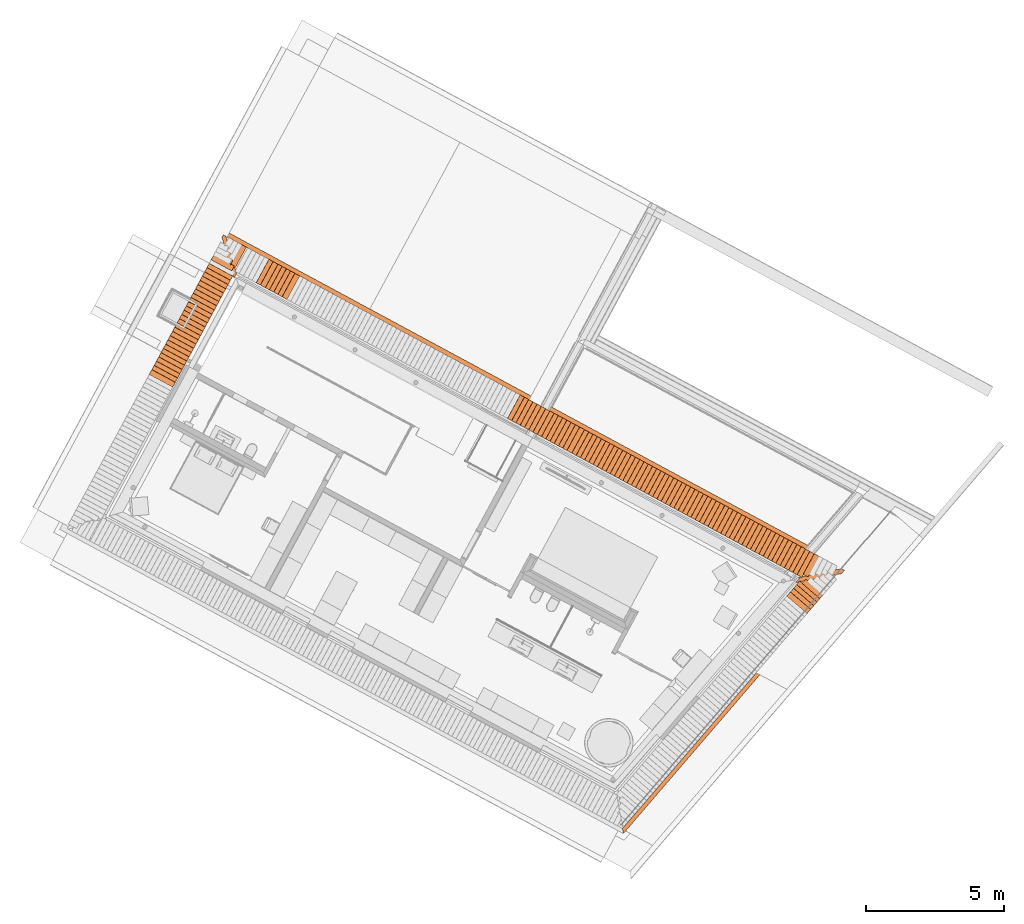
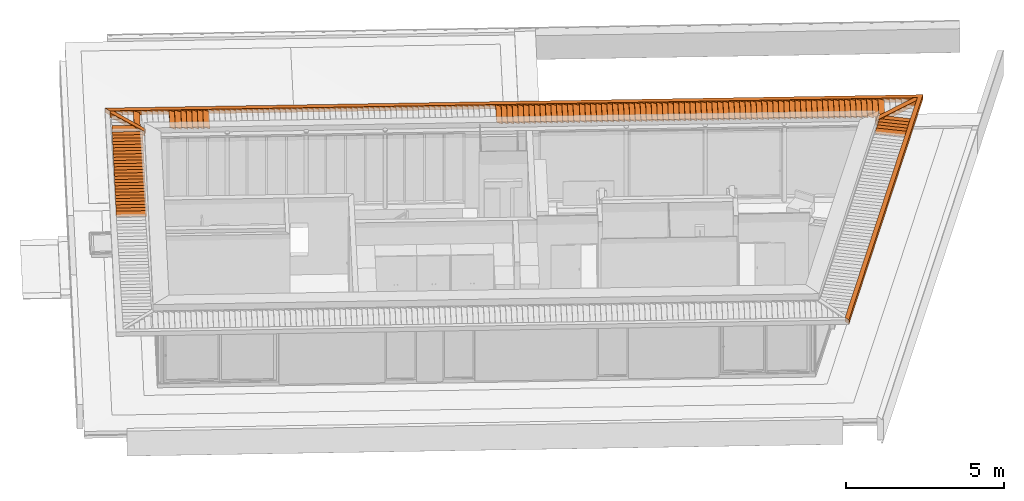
# One storey, part 39 of 41: 113 proxies.
"""IFC2X3 building model written with IfcOpenShell, lengths in metres."""

from ifc_helpers import new_model, entity, si_unit, converted_unit, derived_unit, money_unit, direction, frame, origin_with_axes, place, context, subcontext, project, spatial, polyline, outline, extrude, faceted_brep, source, transform, mapped, material, material_list, type_object, element, save


model = new_model("IFC2X3")

# Units and contexts
model_context = context("Model", 3, precision=1e-05, world=origin_with_axes(), true_north=direction((0.0, 1.0)))
body_context = subcontext(model_context, "Body", "Model", "MODEL_VIEW")
ifc_project = project(units=[si_unit("LENGTHUNIT", "METRE"), si_unit("AREAUNIT", "SQUARE_METRE"), si_unit("VOLUMEUNIT", "CUBIC_METRE"), converted_unit("PLANEANGLEUNIT", "DEGREE", entity("IfcPlaneAngleMeasure", 0.0174532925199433), si_unit("PLANEANGLEUNIT", "RADIAN"), dimensions=[0, 0, 0, 0, 0, 0, 0]), money_unit("EUR"), converted_unit("TIMEUNIT", "Year", entity("IfcTimeMeasure", 31556926.0), si_unit("TIMEUNIT", "SECOND"), dimensions=[0, 0, 1, 0, 0, 0, 0]), si_unit("MASSUNIT", "GRAM", prefix="KILO"), si_unit("THERMODYNAMICTEMPERATUREUNIT", "DEGREE_CELSIUS"), si_unit("LUMINOUSINTENSITYUNIT", "LUMEN"), si_unit("ENERGYUNIT", "JOULE", prefix="MEGA"), derived_unit("THERMALCONDUCTANCEUNIT", [(si_unit("POWERUNIT", "WATT"), 1), (si_unit("LENGTHUNIT", "METRE"), -1), (si_unit("THERMODYNAMICTEMPERATUREUNIT", "KELVIN"), -1)]), derived_unit("SPECIFICHEATCAPACITYUNIT", [(si_unit("ENERGYUNIT", "JOULE"), 1), (si_unit("MASSUNIT", "GRAM", prefix="KILO"), -1), (si_unit("THERMODYNAMICTEMPERATUREUNIT", "KELVIN"), -1)]), derived_unit("MASSDENSITYUNIT", [(si_unit("MASSUNIT", "GRAM", prefix="KILO"), 1), (si_unit("VOLUMEUNIT", "CUBIC_METRE"), -1)])], contexts=[model_context])

# Site, building, storey
site_placement = place(None, frame((-3.949935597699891, 1.740105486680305, 0.0), z_axis=(0.0, 0.0, 1.0), x_axis=(0.8799804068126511, -0.475009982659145, 0.0)))
site = spatial("IfcSite", under=ifc_project, at=site_placement, Name="Gelände", CompositionType="ELEMENT")
building_placement = place(site_placement, origin_with_axes())
building = spatial("IfcBuilding", under=site, at=building_placement, Name="Gebäude", CompositionType="ELEMENT")
storey_placement = place(building_placement, frame((0.0, 0.0, 4.55), z_axis=(0.0, 0.0, 1.0), x_axis=(1.0, 0.0, 0.0)))
storey = spatial("IfcBuildingStorey", under=building, at=storey_placement, Name="Staffelgeschoss", CompositionType="ELEMENT", Elevation=4.55)

# Proxies
ifc_material_1 = material(Name="ALLGEMEIN - BAUTEIL")
building_element_proxy_type_1 = type_object("IfcBuildingElementProxyType", Name="ALLGEMEIN - BAUTEIL", PredefinedType="USERDEFINED")
shared_shape_1 = source(origin_with_axes(), body_context, "Body", "Brep", [
    faceted_brep([(0.2148913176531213, -0.9669323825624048, 0.0), (0.0, -0.9669000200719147, 0.0), (0.0, 0.0, 0.0), (0.2150369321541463, -3.238441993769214e-05, 0.0), (0.2148913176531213, -0.9669323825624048, 0.009999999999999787), (0.0, -0.9669000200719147, 0.009999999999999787), (0.0, 0.0, 0.009999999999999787), (0.2150369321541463, -3.238441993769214e-05, 0.009999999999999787)], [[[0, 1, 2, 3]], [[1, 0, 4, 5]], [[5, 6, 2, 1]], [[6, 7, 3, 2]], [[4, 0, 3, 7]], [[6, 5, 4, 7]]]),
])
for number, where, z_axis, x_axis, name in (
    (1, (5.895087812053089, 12.18825268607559, 2.903466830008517), (0.3575193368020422, 0.0, 0.933905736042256), (0.933905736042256, 0.0, -0.3575193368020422), "Morph-037"),
    (2, (6.070046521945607, 12.18825268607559, 2.903466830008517), (0.3575193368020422, 0.0, 0.933905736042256), (0.933905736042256, 0.0, -0.3575193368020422), "Morph-037"),
    (3, (5.034057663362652, 11.03360166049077, 2.903466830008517), (0.0, -0.3575193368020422, 0.933905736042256), (0.0, -0.933905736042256, -0.3575193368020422), "Morph-037"),
    (4, (5.034057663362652, 10.85864295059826, 2.903466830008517), (0.0, -0.3575193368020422, 0.933905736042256), (0.0, -0.933905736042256, -0.3575193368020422), "Morph-037"),
    (5, (5.034057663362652, 10.68368424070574, 2.903466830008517), (0.0, -0.3575193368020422, 0.933905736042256), (0.0, -0.933905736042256, -0.3575193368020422), "Morph-037"),
    (6, (5.034057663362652, 10.50872553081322, 2.903466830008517), (0.0, -0.3575193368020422, 0.933905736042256), (0.0, -0.933905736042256, -0.3575193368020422), "Morph-037"),
    (7, (5.034057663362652, 10.3337668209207, 2.903466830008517), (0.0, -0.3575193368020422, 0.933905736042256), (0.0, -0.933905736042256, -0.3575193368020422), "Morph-037"),
    (8, (5.034057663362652, 9.983849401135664, 2.903466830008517), (0.0, -0.3575193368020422, 0.933905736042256), (0.0, -0.933905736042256, -0.3575193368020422), "Morph-037"),
    (9, (5.034057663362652, 10.15880811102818, 2.903466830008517), (0.0, -0.3575193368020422, 0.933905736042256), (0.0, -0.933905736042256, -0.3575193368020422), "Morph-037"),
    (10, (5.034057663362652, 9.808890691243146, 2.903466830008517), (0.0, -0.3575193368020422, 0.933905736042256), (0.0, -0.933905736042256, -0.3575193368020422), "Morph-037"),
    (11, (5.034057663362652, 9.633931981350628, 2.903466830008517), (0.0, -0.3575193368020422, 0.933905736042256), (0.0, -0.933905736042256, -0.3575193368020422), "Morph-037"),
    (12, (5.034057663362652, 9.284014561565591, 2.903466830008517), (0.0, -0.3575193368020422, 0.933905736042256), (0.0, -0.933905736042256, -0.3575193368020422), "Morph-037"),
    (13, (5.034057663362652, 9.109055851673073, 2.903466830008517), (0.0, -0.3575193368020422, 0.933905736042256), (0.0, -0.933905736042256, -0.3575193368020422), "Morph-037"),
    (14, (5.034057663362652, 9.45897327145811, 2.903466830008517), (0.0, -0.3575193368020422, 0.933905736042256), (0.0, -0.933905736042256, -0.3575193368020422), "Morph-037"),
    (15, (5.034057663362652, 8.934097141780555, 2.903466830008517), (0.0, -0.3575193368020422, 0.933905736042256), (0.0, -0.933905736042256, -0.3575193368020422), "Morph-037"),
    (16, (5.034057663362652, 8.759138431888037, 2.903466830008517), (0.0, -0.3575193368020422, 0.933905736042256), (0.0, -0.933905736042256, -0.3575193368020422), "Morph-037"),
    (17, (5.034057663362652, 8.584179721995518, 2.903466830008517), (0.0, -0.3575193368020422, 0.933905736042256), (0.0, -0.933905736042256, -0.3575193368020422), "Morph-037"),
    (18, (5.034057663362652, 8.409221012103, 2.903466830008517), (0.0, -0.3575193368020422, 0.933905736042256), (0.0, -0.933905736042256, -0.3575193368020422), "Morph-037"),
    (19, (5.034057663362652, 8.234262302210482, 2.903466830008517), (0.0, -0.3575193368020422, 0.933905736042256), (0.0, -0.933905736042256, -0.3575193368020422), "Morph-037"),
    (20, (5.034057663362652, 7.884344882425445, 2.903466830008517), (0.0, -0.3575193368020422, 0.933905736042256), (0.0, -0.933905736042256, -0.3575193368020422), "Morph-037"),
    (21, (5.034057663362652, 8.059303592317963, 2.903466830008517), (0.0, -0.3575193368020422, 0.933905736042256), (0.0, -0.933905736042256, -0.3575193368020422), "Morph-037"),
    (22, (5.034057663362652, 7.534427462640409, 2.903466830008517), (0.0, -0.3575193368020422, 0.933905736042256), (0.0, -0.933905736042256, -0.3575193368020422), "Morph-037"),
    (23, (5.034057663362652, 7.709386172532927, 2.903466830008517), (0.0, -0.3575193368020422, 0.933905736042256), (0.0, -0.933905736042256, -0.3575193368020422), "Morph-037"),
    (24, (5.034057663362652, 7.35946875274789, 2.903466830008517), (0.0, -0.3575193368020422, 0.933905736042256), (0.0, -0.933905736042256, -0.3575193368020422), "Morph-037"),
    (25, (5.034057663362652, 7.184510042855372, 2.903466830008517), (0.0, -0.3575193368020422, 0.933905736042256), (0.0, -0.933905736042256, -0.3575193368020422), "Morph-037"),
    (26, (5.034057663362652, 7.009551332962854, 2.903466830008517), (0.0, -0.3575193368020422, 0.933905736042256), (0.0, -0.933905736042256, -0.3575193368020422), "Morph-037"),
    (27, (5.034057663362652, 6.834592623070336, 2.903466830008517), (0.0, -0.3575193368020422, 0.933905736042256), (0.0, -0.933905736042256, -0.3575193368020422), "Morph-037"),
    (28, (5.034057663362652, 6.659633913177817, 2.903466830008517), (0.0, -0.3575193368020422, 0.933905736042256), (0.0, -0.933905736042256, -0.3575193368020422), "Morph-037"),
    (29, (6.440462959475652, 12.18825268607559, 2.903466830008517), (0.3575193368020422, 0.0, 0.933905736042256), (0.933905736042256, 0.0, -0.3575193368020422), "Morph-037"),
    (30, (6.61542166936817, 12.18825268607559, 2.903466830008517), (0.3575193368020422, 0.0, 0.933905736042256), (0.933905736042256, 0.0, -0.3575193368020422), "Morph-037"),
    (31, (6.790380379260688, 12.18825268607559, 2.903466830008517), (0.3575193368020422, 0.0, 0.933905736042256), (0.933905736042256, 0.0, -0.3575193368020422), "Morph-037"),
    (32, (6.965339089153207, 12.18825268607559, 2.903466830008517), (0.3575193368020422, 0.0, 0.933905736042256), (0.933905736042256, 0.0, -0.3575193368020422), "Morph-037"),
    (33, (16.23815071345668, 12.18825268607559, 2.903466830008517), (0.3575193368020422, 0.0, 0.933905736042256), (0.933905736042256, 0.0, -0.3575193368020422), "Morph-037"),
    (34, (16.41310942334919, 12.18825268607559, 2.903466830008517), (0.3575193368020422, 0.0, 0.933905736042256), (0.933905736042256, 0.0, -0.3575193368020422), "Morph-037"),
    (35, (16.58806813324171, 12.18825268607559, 2.903466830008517), (0.3575193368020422, 0.0, 0.933905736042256), (0.933905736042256, 0.0, -0.3575193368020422), "Morph-037"),
    (36, (16.76302684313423, 12.18825268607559, 2.903466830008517), (0.3575193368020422, 0.0, 0.933905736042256), (0.933905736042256, 0.0, -0.3575193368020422), "Morph-037"),
    (37, (16.93798555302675, 12.18825268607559, 2.903466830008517), (0.3575193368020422, 0.0, 0.933905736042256), (0.933905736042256, 0.0, -0.3575193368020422), "Morph-037"),
    (38, (17.28790297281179, 12.18825268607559, 2.903466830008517), (0.3575193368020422, 0.0, 0.933905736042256), (0.933905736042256, 0.0, -0.3575193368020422), "Morph-037"),
    (39, (17.11294426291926, 12.18825268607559, 2.903466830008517), (0.3575193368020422, 0.0, 0.933905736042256), (0.933905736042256, 0.0, -0.3575193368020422), "Morph-037"),
    (40, (17.63782039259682, 12.18825268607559, 2.903466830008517), (0.3575193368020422, 0.0, 0.933905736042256), (0.933905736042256, 0.0, -0.3575193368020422), "Morph-037"),
    (41, (17.4628616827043, 12.18825268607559, 2.903466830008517), (0.3575193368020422, 0.0, 0.933905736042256), (0.933905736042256, 0.0, -0.3575193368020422), "Morph-037"),
    (42, (17.81277910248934, 12.18825268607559, 2.903466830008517), (0.3575193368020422, 0.0, 0.933905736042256), (0.933905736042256, 0.0, -0.3575193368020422), "Morph-037"),
    (43, (17.98773781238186, 12.18825268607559, 2.903466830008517), (0.3575193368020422, 0.0, 0.933905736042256), (0.933905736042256, 0.0, -0.3575193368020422), "Morph-037"),
    (44, (18.16269652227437, 12.18825268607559, 2.903466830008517), (0.3575193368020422, 0.0, 0.933905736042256), (0.933905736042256, 0.0, -0.3575193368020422), "Morph-037"),
    (45, (18.3376552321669, 12.18825268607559, 2.903466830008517), (0.3575193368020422, 0.0, 0.933905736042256), (0.933905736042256, 0.0, -0.3575193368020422), "Morph-037"),
    (46, (18.51261394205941, 12.18825268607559, 2.903466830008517), (0.3575193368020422, 0.0, 0.933905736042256), (0.933905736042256, 0.0, -0.3575193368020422), "Morph-037"),
    (47, (18.68757265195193, 12.18825268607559, 2.903466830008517), (0.3575193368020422, 0.0, 0.933905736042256), (0.933905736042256, 0.0, -0.3575193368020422), "Morph-037"),
    (48, (19.06321959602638, 12.1882203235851, 2.903466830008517), (0.3575193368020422, 0.0, 0.933905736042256), (0.933905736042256, 0.0, -0.3575193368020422), "Morph-037"),
    (49, (19.2381783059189, 12.1882203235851, 2.903466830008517), (0.3575193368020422, 0.0, 0.933905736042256), (0.933905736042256, 0.0, -0.3575193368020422), "Morph-037"),
    (50, (19.41313701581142, 12.1882203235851, 2.903466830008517), (0.3575193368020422, 0.0, 0.933905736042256), (0.933905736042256, 0.0, -0.3575193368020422), "Morph-037"),
    (51, (19.76305443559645, 12.1882203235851, 2.903466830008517), (0.3575193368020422, 0.0, 0.933905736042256), (0.933905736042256, 0.0, -0.3575193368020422), "Morph-037"),
    (52, (19.58809572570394, 12.1882203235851, 2.903466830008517), (0.3575193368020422, 0.0, 0.933905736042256), (0.933905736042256, 0.0, -0.3575193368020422), "Morph-037"),
    (53, (20.11297185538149, 12.1882203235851, 2.903466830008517), (0.3575193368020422, 0.0, 0.933905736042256), (0.933905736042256, 0.0, -0.3575193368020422), "Morph-037"),
    (54, (19.93801314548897, 12.1882203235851, 2.903466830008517), (0.3575193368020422, 0.0, 0.933905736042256), (0.933905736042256, 0.0, -0.3575193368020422), "Morph-037"),
    (55, (20.28793056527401, 12.1882203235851, 2.903466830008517), (0.3575193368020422, 0.0, 0.933905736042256), (0.933905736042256, 0.0, -0.3575193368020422), "Morph-037"),
    (56, (20.63784798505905, 12.1882203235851, 2.903466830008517), (0.3575193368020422, 0.0, 0.933905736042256), (0.933905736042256, 0.0, -0.3575193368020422), "Morph-037"),
    (57, (20.46288927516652, 12.1882203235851, 2.903466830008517), (0.3575193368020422, 0.0, 0.933905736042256), (0.933905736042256, 0.0, -0.3575193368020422), "Morph-037"),
    (58, (20.81280669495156, 12.1882203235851, 2.903466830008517), (0.3575193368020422, 0.0, 0.933905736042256), (0.933905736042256, 0.0, -0.3575193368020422), "Morph-037"),
    (59, (20.98776540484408, 12.1882203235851, 2.903466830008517), (0.3575193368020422, 0.0, 0.933905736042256), (0.933905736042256, 0.0, -0.3575193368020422), "Morph-037"),
    (60, (21.1627241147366, 12.1882203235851, 2.903466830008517), (0.3575193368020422, 0.0, 0.933905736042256), (0.933905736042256, 0.0, -0.3575193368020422), "Morph-037"),
    (61, (21.33768282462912, 12.1882203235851, 2.903466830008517), (0.3575193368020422, 0.0, 0.933905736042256), (0.933905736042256, 0.0, -0.3575193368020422), "Morph-037"),
    (62, (21.51264153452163, 12.1882203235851, 2.903466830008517), (0.3575193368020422, 0.0, 0.933905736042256), (0.933905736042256, 0.0, -0.3575193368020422), "Morph-037"),
    (63, (21.68760024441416, 12.1882203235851, 2.903466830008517), (0.3575193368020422, 0.0, 0.933905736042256), (0.933905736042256, 0.0, -0.3575193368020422), "Morph-037"),
    (64, (21.86255895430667, 12.1882203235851, 2.903466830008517), (0.3575193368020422, 0.0, 0.933905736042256), (0.933905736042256, 0.0, -0.3575193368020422), "Morph-037"),
    (65, (22.03751766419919, 12.1882203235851, 2.903466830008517), (0.3575193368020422, 0.0, 0.933905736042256), (0.933905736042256, 0.0, -0.3575193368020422), "Morph-037"),
    (66, (22.21247637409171, 12.1882203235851, 2.903466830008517), (0.3575193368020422, 0.0, 0.933905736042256), (0.933905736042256, 0.0, -0.3575193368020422), "Morph-037"),
    (67, (22.38743508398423, 12.1882203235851, 2.903466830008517), (0.3575193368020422, 0.0, 0.933905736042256), (0.933905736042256, 0.0, -0.3575193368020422), "Morph-037"),
    (68, (22.56239379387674, 12.1882203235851, 2.903466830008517), (0.3575193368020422, 0.0, 0.933905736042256), (0.933905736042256, 0.0, -0.3575193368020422), "Morph-037"),
    (69, (22.73735250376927, 12.1882203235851, 2.903466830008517), (0.3575193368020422, 0.0, 0.933905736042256), (0.933905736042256, 0.0, -0.3575193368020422), "Morph-037"),
    (70, (22.91231121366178, 12.1882203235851, 2.903466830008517), (0.3575193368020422, 0.0, 0.933905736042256), (0.933905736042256, 0.0, -0.3575193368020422), "Morph-037"),
    (71, (23.0872699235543, 12.1882203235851, 2.903466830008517), (0.3575193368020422, 0.0, 0.933905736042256), (0.933905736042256, 0.0, -0.3575193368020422), "Morph-037"),
    (72, (23.26222863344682, 12.1882203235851, 2.903466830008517), (0.3575193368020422, 0.0, 0.933905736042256), (0.933905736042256, 0.0, -0.3575193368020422), "Morph-037"),
    (73, (23.43718734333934, 12.1882203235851, 2.903466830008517), (0.3575193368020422, 0.0, 0.933905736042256), (0.933905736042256, 0.0, -0.3575193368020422), "Morph-037"),
    (74, (23.61214605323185, 12.1882203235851, 2.903466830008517), (0.3575193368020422, 0.0, 0.933905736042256), (0.933905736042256, 0.0, -0.3575193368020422), "Morph-037"),
    (75, (23.96206347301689, 12.1882203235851, 2.903466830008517), (0.3575193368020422, 0.0, 0.933905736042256), (0.933905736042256, 0.0, -0.3575193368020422), "Morph-037"),
    (76, (23.78710476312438, 12.1882203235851, 2.903466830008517), (0.3575193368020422, 0.0, 0.933905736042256), (0.933905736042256, 0.0, -0.3575193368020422), "Morph-037"),
    (77, (24.31198089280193, 12.1882203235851, 2.903466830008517), (0.3575193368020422, 0.0, 0.933905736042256), (0.933905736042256, 0.0, -0.3575193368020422), "Morph-037"),
    (78, (24.13702218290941, 12.1882203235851, 2.903466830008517), (0.3575193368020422, 0.0, 0.933905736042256), (0.933905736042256, 0.0, -0.3575193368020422), "Morph-037"),
    (79, (24.48693960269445, 12.1882203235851, 2.903466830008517), (0.3575193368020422, 0.0, 0.933905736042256), (0.933905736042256, 0.0, -0.3575193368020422), "Morph-037"),
    (80, (24.83685702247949, 12.1882203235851, 2.903466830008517), (0.3575193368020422, 0.0, 0.933905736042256), (0.933905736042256, 0.0, -0.3575193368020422), "Morph-037"),
    (81, (24.66189831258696, 12.1882203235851, 2.903466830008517), (0.3575193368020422, 0.0, 0.933905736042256), (0.933905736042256, 0.0, -0.3575193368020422), "Morph-037"),
    (82, (25.011815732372, 12.1882203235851, 2.903466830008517), (0.3575193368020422, 0.0, 0.933905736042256), (0.933905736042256, 0.0, -0.3575193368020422), "Morph-037"),
    (83, (25.18677444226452, 12.1882203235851, 2.903466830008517), (0.3575193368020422, 0.0, 0.933905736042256), (0.933905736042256, 0.0, -0.3575193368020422), "Morph-037"),
    (84, (25.36173315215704, 12.1882203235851, 2.903466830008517), (0.3575193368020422, 0.0, 0.933905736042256), (0.933905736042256, 0.0, -0.3575193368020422), "Morph-037"),
    (85, (25.53669186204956, 12.1882203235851, 2.903466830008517), (0.3575193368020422, 0.0, 0.933905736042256), (0.933905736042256, 0.0, -0.3575193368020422), "Morph-037"),
    (86, (25.71165057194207, 12.1882203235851, 2.903466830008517), (0.3575193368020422, 0.0, 0.933905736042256), (0.933905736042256, 0.0, -0.3575193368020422), "Morph-037"),
    (87, (25.88660928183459, 12.1882203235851, 2.903466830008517), (0.3575193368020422, 0.0, 0.933905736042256), (0.933905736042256, 0.0, -0.3575193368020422), "Morph-037"),
    (88, (26.06156799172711, 12.1882203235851, 2.903466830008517), (0.3575193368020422, 0.0, 0.933905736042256), (0.933905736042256, 0.0, -0.3575193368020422), "Morph-037"),
    (89, (18.88826088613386, 12.1882203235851, 2.903466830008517), (0.3575193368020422, 0.0, 0.933905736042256), (0.933905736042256, 0.0, -0.3575193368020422), "Morph-037"),
    (90, (26.23652664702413, 12.18788176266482, 2.903466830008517), (0.3575193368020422, 0.0, 0.933905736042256), (0.933905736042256, 0.0, -0.3575193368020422), "Morph-037"),
    (91, (6.270870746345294, 12.18825268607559, 2.903466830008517), (0.3575193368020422, 0.0, 0.933905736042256), (0.933905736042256, 0.0, -0.3575193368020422), "Morph-037"),
    (92, (26.41148535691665, 12.18788176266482, 2.903466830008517), (0.3575193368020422, 0.0, 0.933905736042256), (0.933905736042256, 0.0, -0.3575193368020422), "Morph-037"),
    (93, (26.58644406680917, 12.18788176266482, 2.903466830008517), (0.3575193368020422, 0.0, 0.933905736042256), (0.933905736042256, 0.0, -0.3575193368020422), "Morph-037"),
    (94, (26.76140277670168, 12.18788176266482, 2.903466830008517), (0.3575193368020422, 0.0, 0.933905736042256), (0.933905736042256, 0.0, -0.3575193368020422), "Morph-037"),
    (95, (26.9363614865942, 12.18788176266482, 2.903466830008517), (0.3575193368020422, 0.0, 0.933905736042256), (0.933905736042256, 0.0, -0.3575193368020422), "Morph-037"),
    (96, (27.28627890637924, 12.18788176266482, 2.903466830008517), (0.3575193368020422, 0.0, 0.933905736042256), (0.933905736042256, 0.0, -0.3575193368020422), "Morph-037"),
    (97, (27.11132019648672, 12.18788176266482, 2.903466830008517), (0.3575193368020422, 0.0, 0.933905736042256), (0.933905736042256, 0.0, -0.3575193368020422), "Morph-037"),
    (98, (27.46123761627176, 12.18788176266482, 2.903466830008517), (0.3575193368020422, 0.0, 0.933905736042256), (0.933905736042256, 0.0, -0.3575193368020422), "Morph-037"),
    (99, (27.63619632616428, 12.18788176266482, 2.903466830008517), (0.3575193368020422, 0.0, 0.933905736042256), (0.933905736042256, 0.0, -0.3575193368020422), "Morph-037"),
    (100, (27.81115503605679, 12.18788176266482, 2.903466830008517), (0.3575193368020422, 0.0, 0.933905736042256), (0.933905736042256, 0.0, -0.3575193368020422), "Morph-037"),
    (101, (28.16107245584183, 12.18788176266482, 2.903466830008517), (0.3575193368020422, 0.0, 0.933905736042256), (0.933905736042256, 0.0, -0.3575193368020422), "Morph-037"),
    (102, (27.98611374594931, 12.18788176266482, 2.903466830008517), (0.3575193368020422, 0.0, 0.933905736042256), (0.933905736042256, 0.0, -0.3575193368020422), "Morph-037"),
    (103, (29.3024389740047, 10.86673550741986, 2.903466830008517), (-0.07623058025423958, -0.3492978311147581, 0.933905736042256), (-0.1991281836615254, -0.9124296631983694, -0.3575193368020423), "Morph-037"),
    (104, (29.26513412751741, 10.69580014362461, 2.903466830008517), (-0.07623058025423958, -0.3492978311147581, 0.933905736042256), (-0.1991281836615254, -0.9124296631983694, -0.3575193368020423), "Morph-037"),
    (105, (29.22782928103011, 10.52486477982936, 2.903466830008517), (-0.07623058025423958, -0.3492978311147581, 0.933905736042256), (-0.1991281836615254, -0.9124296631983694, -0.3575193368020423), "Morph-037"),
    (106, (29.19052443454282, 10.35392941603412, 2.903466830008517), (-0.07623058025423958, -0.3492978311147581, 0.933905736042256), (-0.1991281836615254, -0.9124296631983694, -0.3575193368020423), "Morph-037"),
):
    element("IfcBuildingElementProxy", number, at=place(storey_placement, frame(where, z_axis=z_axis, x_axis=x_axis)), inside=storey, type_object=building_element_proxy_type_1, material=ifc_material_1, Name=name, ObjectType="SHADING_DEVICE", context=body_context, shape_type="MappedRepresentation", body=[
        mapped(shared_shape_1, transform((0.0, 0.0, 0.0))),
    ])
shared_shape_2 = source(origin_with_axes(), body_context, "Body", "Brep", [
    faceted_brep([(-5.340442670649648e-05, -0.3143936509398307, -1.305102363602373e-05), (-2.435784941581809e-05, -0.1215204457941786, -1.305102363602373e-05), (0.2150125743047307, -0.1215528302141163, -1.305102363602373e-05), (0.2148913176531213, -0.9669323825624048, 0.0), (0.0, -0.9669000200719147, 0.0), (-5.340442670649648e-05, -0.3143936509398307, 0.00998694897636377), (-2.435784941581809e-05, -0.1215204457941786, 0.00998694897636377), (0.2150125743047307, -0.1215528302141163, 0.00998694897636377), (0.2148913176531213, -0.9669323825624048, 0.009999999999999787), (0.0, -0.9669000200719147, 0.009999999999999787)], [[[0, 1, 2, 3, 4]], [[0, 5, 6, 1]], [[1, 6, 7, 2]], [[8, 3, 2, 7]], [[3, 8, 9, 4]], [[9, 5, 0, 4]], [[5, 9, 8, 7, 6]]]),
])
for number, where, z_axis, x_axis, name in (
    (107, (29.4616301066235, 11.0219917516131, 2.903466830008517), (-0.07787668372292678, -0.3489345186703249, 0.933905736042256), (-0.2034281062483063, -0.9114806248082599, -0.3575193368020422), "Morph-037"),
    (108, (28.34692991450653, 12.31014913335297, 2.903466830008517), (0.3575193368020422, 0.0, 0.933905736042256), (0.933905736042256, 0.0, -0.3575193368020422), "Morph-037"),
    (109, (4.766498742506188, 12.30980551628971, 2.903466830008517), (0.3575193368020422, 0.0, 0.933905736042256), (0.933905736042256, 0.0, -0.3575193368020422), "Morph-037"),
    (110, (5.033951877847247, 11.38033224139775, 2.903466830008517), (0.0, -0.3575193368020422, 0.933905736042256), (0.0, -0.933905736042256, -0.3575193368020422), "Morph-037"),
):
    element("IfcBuildingElementProxy", number, at=place(storey_placement, frame(where, z_axis=z_axis, x_axis=x_axis)), inside=storey, type_object=building_element_proxy_type_1, material=ifc_material_1, Name=name, ObjectType="SHADING_DEVICE", context=body_context, shape_type="MappedRepresentation", body=[
        mapped(shared_shape_2, transform((0.0, 0.0, 0.0))),
    ])
ifc_material_2 = material(Name="Dämmung, hart EPS")
ifc_material_3 = material(Name="Sperrschicht, Folie")
ifc_material_4 = material(Name="Estrich")
ifc_material_5 = material(Name="Kleber")
ifc_material_6 = material(Name="Beton, Leichtbeton")
ifc_material_list = material_list([ifc_material_2, ifc_material_3, ifc_material_4, ifc_material_5, ifc_material_6])
building_element_proxy_type_2 = type_object("IfcBuildingElementProxyType", Name="BO | Dämmung 8+Folie+Estrich 7+Fliese 0,5 | 16cm 170", PredefinedType="NOTDEFINED")
proxy_1_placement = place(storey_placement, frame((28.23115328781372, 11.14280060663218, 2.75), z_axis=(0.0, 0.0, 1.0), x_axis=(1.0, 0.0, 0.0)))
element("IfcBuildingElementProxy", 111, at=proxy_1_placement, inside=storey, type_object=building_element_proxy_type_2, material=ifc_material_list, Name="Decke055", context=body_context, shape_type="SweptSolid", body=[
    extrude(outline(polyline([(0.0, 0.0), (0.05821938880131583, 0.0), (0.01235594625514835, -0.2099893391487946), (1.329367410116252, 0.8777926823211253), (1.364410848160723, 1.038242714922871), (1.243079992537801, 1.038242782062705), (0.0, 0.0)])), origin_with_axes(), (0.0, 0.0, 1.0), 0.08),
    extrude(outline(polyline([(0.0, 0.0), (0.05821938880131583, 0.0), (0.01235594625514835, -0.2099893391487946), (1.329367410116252, 0.8777926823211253), (1.364410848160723, 1.038242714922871), (1.243079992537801, 1.038242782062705), (0.0, 0.0)])), frame((0.0, 0.0, 0.08), z_axis=(0.0, 0.0, 1.0), x_axis=(1.0, 0.0, 0.0)), (0.0, 0.0, 1.0), 0.0),
    extrude(outline(polyline([(0.0, 0.0), (0.05821938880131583, 0.0), (0.01235594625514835, -0.2099893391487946), (1.329367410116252, 0.8777926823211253), (1.364410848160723, 1.038242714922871), (1.243079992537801, 1.038242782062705), (0.0, 0.0)])), frame((0.0, 0.0, 0.08), z_axis=(0.0, 0.0, 1.0), x_axis=(1.0, 0.0, 0.0)), (0.0, 0.0, 1.0), 0.07),
    extrude(outline(polyline([(0.0, 0.0), (0.05821938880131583, 0.0), (0.01235594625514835, -0.2099893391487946), (1.329367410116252, 0.8777926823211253), (1.364410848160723, 1.038242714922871), (1.243079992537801, 1.038242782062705), (0.0, 0.0)])), frame((0.0, 0.0, 0.15), z_axis=(0.0, 0.0, 1.0), x_axis=(1.0, 0.0, 0.0)), (0.0, 0.0, 1.0), 0.01),
    extrude(outline(polyline([(0.0, 0.0), (0.05821938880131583, 0.0), (0.01235594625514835, -0.2099893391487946), (1.329367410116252, 0.8777926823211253), (1.364410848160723, 1.038242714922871), (1.243079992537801, 1.038242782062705), (0.0, 0.0)])), frame((0.0, 0.0, 0.16), z_axis=(0.0, 0.0, 1.0), x_axis=(1.0, 0.0, 0.0)), (0.0, 0.0, 1.0), 0.01),
])
proxy_2_placement = place(storey_placement, frame((4.135622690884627, 12.18105763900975, 2.75), z_axis=(0.0, 0.0, 1.0), x_axis=(1.0, 0.0, 0.0)))
element("IfcBuildingElementProxy", 112, at=proxy_2_placement, inside=storey, type_object=building_element_proxy_type_2, material=ifc_material_list, Name="Decke056", context=body_context, shape_type="SweptSolid", body=[
    extrude(outline(polyline([(0.0, 0.0), (-0.1117475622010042, 6.183680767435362e-08), (-0.1110475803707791, -0.1025124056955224), (0.9768586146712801, -1.19041860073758), (0.9768586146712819, -1.03825608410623), (1.007835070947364, -1.03825608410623), (0.0, 0.0)])), origin_with_axes(), (0.0, 0.0, 1.0), 0.08),
    extrude(outline(polyline([(0.0, 0.0), (-0.1117475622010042, 6.183680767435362e-08), (-0.1110475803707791, -0.1025124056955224), (0.9768586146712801, -1.19041860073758), (0.9768586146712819, -1.03825608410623), (1.007835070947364, -1.03825608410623), (0.0, 0.0)])), frame((0.0, 0.0, 0.08), z_axis=(0.0, 0.0, 1.0), x_axis=(1.0, 0.0, 0.0)), (0.0, 0.0, 1.0), 0.0),
    extrude(outline(polyline([(0.0, 0.0), (-0.1117475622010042, 6.183680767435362e-08), (-0.1110475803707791, -0.1025124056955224), (0.9768586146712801, -1.19041860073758), (0.9768586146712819, -1.03825608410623), (1.007835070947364, -1.03825608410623), (0.0, 0.0)])), frame((0.0, 0.0, 0.08), z_axis=(0.0, 0.0, 1.0), x_axis=(1.0, 0.0, 0.0)), (0.0, 0.0, 1.0), 0.07),
    extrude(outline(polyline([(0.0, 0.0), (-0.1117475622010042, 6.183680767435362e-08), (-0.1110475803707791, -0.1025124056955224), (0.9768586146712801, -1.19041860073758), (0.9768586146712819, -1.03825608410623), (1.007835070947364, -1.03825608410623), (0.0, 0.0)])), frame((0.0, 0.0, 0.15), z_axis=(0.0, 0.0, 1.0), x_axis=(1.0, 0.0, 0.0)), (0.0, 0.0, 1.0), 0.01),
    extrude(outline(polyline([(0.0, 0.0), (-0.1117475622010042, 6.183680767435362e-08), (-0.1110475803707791, -0.1025124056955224), (0.9768586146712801, -1.19041860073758), (0.9768586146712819, -1.03825608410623), (1.007835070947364, -1.03825608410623), (0.0, 0.0)])), frame((0.0, 0.0, 0.16), z_axis=(0.0, 0.0, 1.0), x_axis=(1.0, 0.0, 0.0)), (0.0, 0.0, 1.0), 0.01),
])
proxy_3_placement = place(storey_placement, frame((26.9635319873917, 0.1300098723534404, 2.75), z_axis=(0.0, 0.0, 1.0), x_axis=(1.0, 0.0, 0.0)))
element("IfcBuildingElementProxy", 113, at=proxy_3_placement, inside=storey, type_object=building_element_proxy_type_2, material=ifc_material_list, Name="Decke040", context=body_context, shape_type="SweptSolid", body=[
    extrude(outline(polyline([(0.0, 0.0), (0.1163184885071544, -0.1488352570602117), (2.816183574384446, 12.21277836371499), (-23.08735351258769, 12.21279299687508), (-22.93965685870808, 12.05104782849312), (2.632032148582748, 12.05103344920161), (0.0, 0.0)])), origin_with_axes(), (0.0, 0.0, 1.0), 0.08),
    extrude(outline(polyline([(0.0, 0.0), (0.1163184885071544, -0.1488352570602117), (2.816183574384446, 12.21277836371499), (-23.08735351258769, 12.21279299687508), (-22.93965685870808, 12.05104782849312), (2.632032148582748, 12.05103344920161), (0.0, 0.0)])), frame((0.0, 0.0, 0.08), z_axis=(0.0, 0.0, 1.0), x_axis=(1.0, 0.0, 0.0)), (0.0, 0.0, 1.0), 0.0),
    extrude(outline(polyline([(0.0, 0.0), (0.1163184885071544, -0.1488352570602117), (2.816183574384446, 12.21277836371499), (-23.08735351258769, 12.21279299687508), (-22.93965685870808, 12.05104782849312), (2.632032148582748, 12.05103344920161), (0.0, 0.0)])), frame((0.0, 0.0, 0.08), z_axis=(0.0, 0.0, 1.0), x_axis=(1.0, 0.0, 0.0)), (0.0, 0.0, 1.0), 0.07),
    extrude(outline(polyline([(0.0, 0.0), (0.1163184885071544, -0.1488352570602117), (2.816183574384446, 12.21277836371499), (-23.08735351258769, 12.21279299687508), (-22.93965685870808, 12.05104782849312), (2.632032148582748, 12.05103344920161), (0.0, 0.0)])), frame((0.0, 0.0, 0.15), z_axis=(0.0, 0.0, 1.0), x_axis=(1.0, 0.0, 0.0)), (0.0, 0.0, 1.0), 0.01),
    extrude(outline(polyline([(0.0, 0.0), (0.1163184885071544, -0.1488352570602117), (2.816183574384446, 12.21277836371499), (-23.08735351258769, 12.21279299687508), (-22.93965685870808, 12.05104782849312), (2.632032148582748, 12.05103344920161), (0.0, 0.0)])), frame((0.0, 0.0, 0.16), z_axis=(0.0, 0.0, 1.0), x_axis=(1.0, 0.0, 0.0)), (0.0, 0.0, 1.0), 0.01),
])

save(model, "model.ifc")
